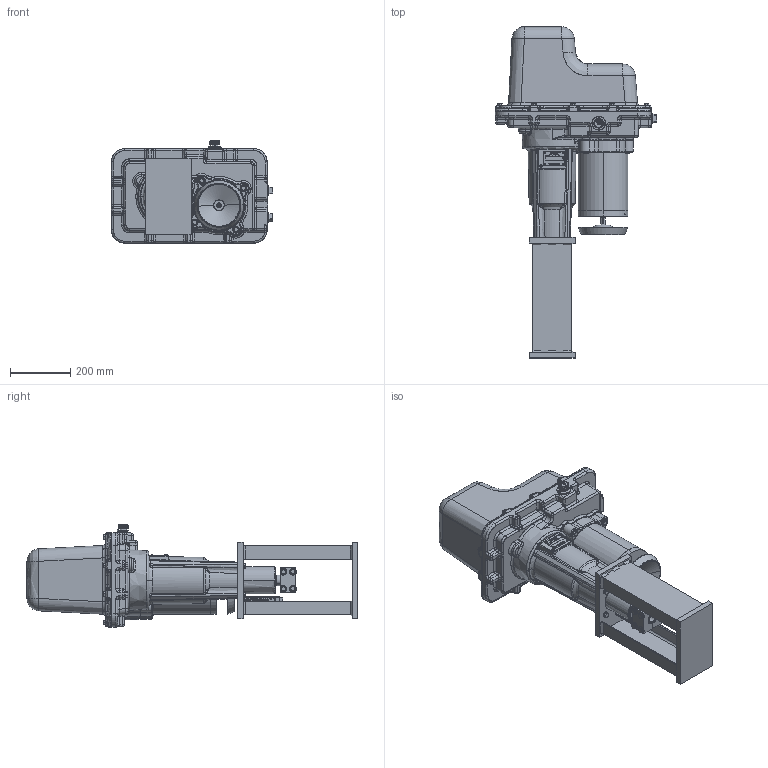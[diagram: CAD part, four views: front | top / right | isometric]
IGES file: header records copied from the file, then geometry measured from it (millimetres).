
Start section: SolidWorks IGES file using analytic representation for surfaces
Global section: file name: N:\Engineering\Product Support\Outline Dimension Models\29-600\IGES + STEP\18-2960-01.IGS; native system: SolidWorks 2009; preprocessor: SolidWorks 2009; author: jmack; date: 110624.132002; units: inch
Bounding box: 535.52 x 1101.72 x 339.56 mm (x, y, z)
Surface area: 1814780 mm2 (no closed solid volume)
Topology: 0 solids, 0 shells, 1704 faces, 27716 edges, 27655 vertices
Faces by surface type: bspline 1024, revolution 680
